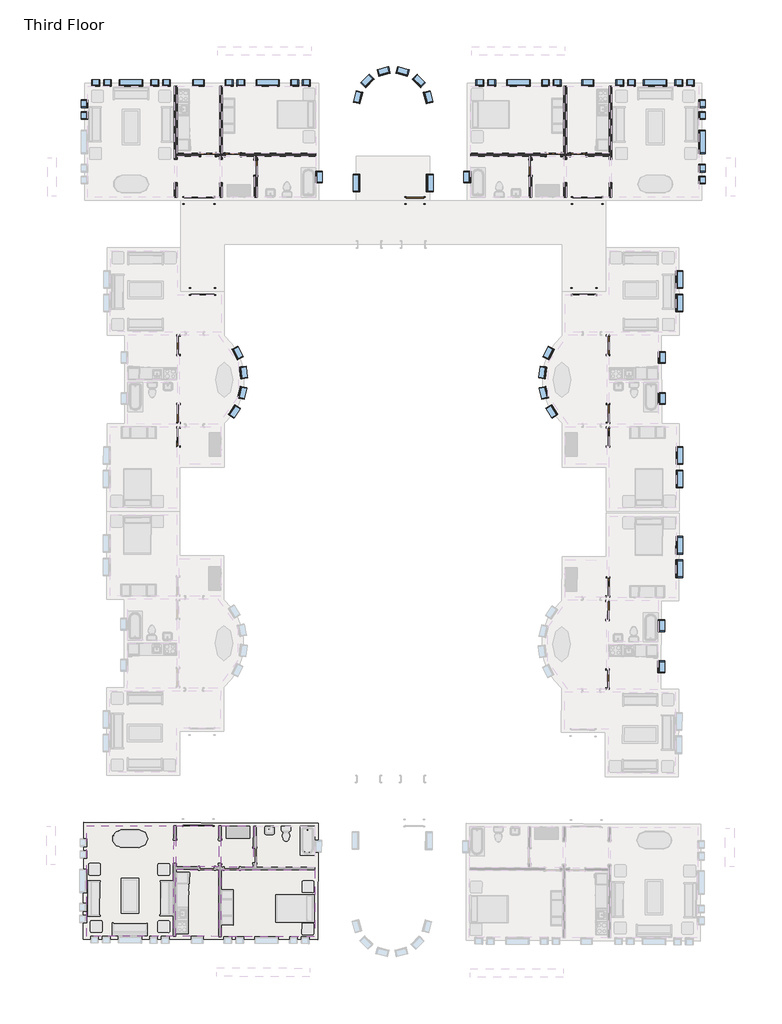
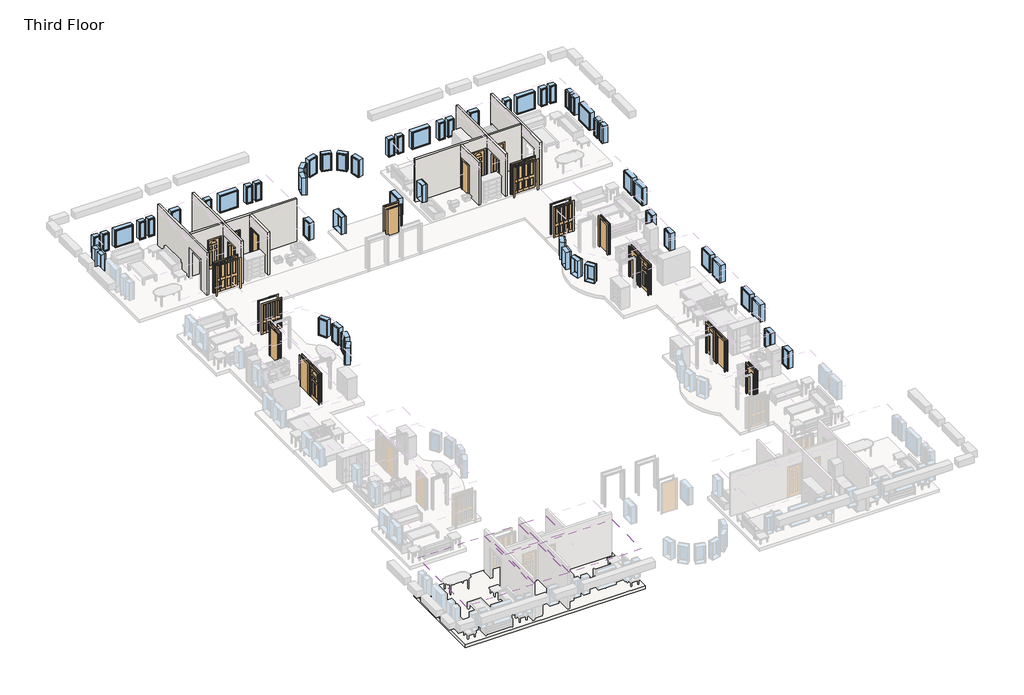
# One storey, part 2 of 5: 57 windows, 20 doors, 8 walls, 5 coverings, 1 slab.
"""IFC4 building model written with IfcOpenShell, lengths in millimetres."""

from ifc_helpers import new_model, si_unit, frame, origin, place, context, project, spatial, polyline, outline, extrude, faceted_brep, transform, mapped, element, save
from components import m_bifold_4_panel_1220_x_2134mm_46e1cad3, m_bifold_4_panel_1220_x_2134mm_cde6dea2, m_bifold_4_panel_1525_x_2134mm_1ddae71f, m_bifold_4_panel_1525_x_2134mm_ac598c8b, m_single_decorative_2_0762_x_2134mm_0d0af7cb, m_single_decorative_2_0762_x_2134mm_2fe67c8e, m_single_decorative_2_0915_x_2134mm_cc9a65e4, m_single_decorative_2_0915_x_2134mm_0b11df3f, m_single_flush_0762_x_2134mm_0d89e411, m_single_flush_0762_x_2134mm_a28375c7, m_single_flush_0915_x_2134mm_1eac8bb1, m_single_flush_0915_x_2134mm_ab9b6334, m_single_flush_0915_x_2134mm_08e0827a, m_fixed_0406_x_1220mm_57fee329, m_fixed_0406_x_1220mm_85c28f40, m_fixed_0610_x_1220mm_2c28ef1d, m_fixed_0610_x_1220mm_1ea27827, m_fixed_0915_x_1220mm_bde29121, m_fixed_0915_x_1220mm_2a2509e7, m_fixed_1220_x_1220mm_e08ff7af, m_fixed_1220_x_1220mm_8f5f8ad3

model = new_model("IFC4")

# Units and contexts
model_context = context("Model", 3, world=origin())
ifc_project = project(units=[si_unit("LENGTHUNIT", "METRE", prefix="MILLI")], contexts=[model_context])

# Site, building, storey
site = spatial("IfcSite", under=ifc_project)
building = spatial("IfcBuilding", under=site)
storey = spatial("IfcBuildingStorey", under=building, Name="Third Floor", Elevation=6096.0)

# Coverings
placement = place(None, origin())
element("IfcCovering", 1, ObjectType="Plain", at=placement, inside=storey, context=model_context, shape_type="SweptSolid", body=[
    extrude(outline(polyline([(-23042.7754252, -41764.4492391), (-27891.2551095, -41750.4135399), (-27881.1911499, -38273.9281067), (-23032.7114656, -38287.9638059), (-23042.7754252, -41764.4492391)])), frame((0.0, 0.0, 8686.0), z_axis=(0.0, 0.0, 1.0), x_axis=(1.0, 0.0, 0.0)), (0.0, 0.0, 1.0), 57.0),
])
element("IfcCovering", 2, ObjectType="Plain", at=placement, inside=storey, context=model_context, shape_type="SweptSolid", body=[
    extrude(outline(polyline([(-28016.6905821, -38273.535854), (-28026.7545418, -41750.0212871), (-30244.9952471, -41743.5997775), (-30234.9312874, -38267.1143443), (-28016.6905821, -38273.535854)])), frame((0.0, 0.0, 8686.0), z_axis=(0.0, 0.0, 1.0), x_axis=(1.0, 0.0, 0.0)), (0.0, 0.0, 1.0), 57.0),
])
element("IfcCovering", 3, ObjectType="Plain", at=placement, inside=storey, context=model_context, shape_type="SweptSolid", body=[
    extrude(outline(polyline([(-30363.8608487, -35997.2316011), (-30380.4946793, -41743.2075247), (-34884.7258061, -41730.168379), (-34868.0919755, -35984.1924553), (-30363.8608487, -35997.2316011)])), frame((0.0, 0.0, 8686.0), z_axis=(0.0, 0.0, 1.0), x_axis=(1.0, 0.0, 0.0)), (0.0, 0.0, 1.0), 57.0),
])
element("IfcCovering", 4, ObjectType="Plain", at=placement, inside=storey, context=model_context, shape_type="SweptSolid", body=[
    extrude(outline(polyline([(-30228.3614165, -35997.6238538), (-28010.1207112, -36004.0453635), (-28016.2983294, -38138.0364218), (-30234.5390347, -38131.6149121), (-30228.3614165, -35997.6238538)])), frame((0.0, 0.0, 8686.0), z_axis=(0.0, 0.0, 1.0), x_axis=(1.0, 0.0, 0.0)), (0.0, 0.0, 1.0), 57.0),
])
element("IfcCovering", 5, ObjectType="Plain", at=placement, inside=storey, context=model_context, shape_type="SweptSolid", body=[
    extrude(outline(polyline([(-27874.6212789, -36004.4376162), (-26209.6282554, -36009.2575479), (-26215.8058737, -38143.2486063), (-27880.7988972, -38138.4286745), (-27874.6212789, -36004.4376162)])), frame((0.0, 0.0, 8686.0), z_axis=(0.0, 0.0, 1.0), x_axis=(1.0, 0.0, 0.0)), (0.0, 0.0, 1.0), 57.0),
])

# Doors
m_bifold_4_panel_1220_x_2134mm_shape = m_bifold_4_panel_1220_x_2134mm_46e1cad3(model_context)
element("IfcDoor", 6, ObjectType="M_Bifold-4 Panel : 1220 x 2134mm", at=placement, inside=storey, context=model_context, shape_type="MappedRepresentation", body=[
    mapped(m_bifold_4_panel_1220_x_2134mm_shape, transform((-28863.3459343, -8240.6820888, 6096.0), x_axis=(-0.9999989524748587, 0.0014474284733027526, 0.0), y_axis=(-0.0014474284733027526, -0.9999989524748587, 0.0), z_axis=(0.0, 0.0, 1.0))),
])
m_bifold_4_panel_1220_x_2134mm_2_shape = m_bifold_4_panel_1220_x_2134mm_cde6dea2(model_context)
element("IfcDoor", 7, ObjectType="M_Bifold-4 Panel : 1220 x 2134mm", at=placement, inside=storey, context=model_context, shape_type="MappedRepresentation", body=[
    mapped(m_bifold_4_panel_1220_x_2134mm_2_shape, transform((-9050.8373063, -8240.6820888, 6096.0), x_axis=(0.9999989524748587, 0.0014474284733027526, 0.0), y_axis=(-0.0014474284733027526, 0.9999989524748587, 0.0), z_axis=(0.0, 0.0, 1.0))),
])
m_bifold_4_panel_1525_x_2134mm_shape = m_bifold_4_panel_1525_x_2134mm_1ddae71f(model_context)
element("IfcDoor", 8, ObjectType="M_Bifold-4 Panel : 1525 x 2134mm", at=placement, inside=storey, context=model_context, shape_type="MappedRepresentation", body=[
    mapped(m_bifold_4_panel_1525_x_2134mm_shape, transform((-8876.0916203, -3514.8811614, 6096.0), x_axis=(1.0, 0.0, 0.0), y_axis=(0.0, 1.0, 0.0), z_axis=(0.0, 0.0, 1.0))),
])
m_bifold_4_panel_1525_x_2134mm_2_shape = m_bifold_4_panel_1525_x_2134mm_ac598c8b(model_context)
element("IfcDoor", 9, ObjectType="M_Bifold-4 Panel : 1525 x 2134mm", at=placement, inside=storey, context=model_context, shape_type="MappedRepresentation", body=[
    mapped(m_bifold_4_panel_1525_x_2134mm_2_shape, transform((-29038.0916203, -3514.8811614, 6096.0), x_axis=(-1.0, 0.0, 0.0), y_axis=(0.0, -1.0, 0.0), z_axis=(0.0, 0.0, 1.0))),
])
m_single_decorative_2_0762_x_2134mm_shape = m_single_decorative_2_0762_x_2134mm_0d0af7cb(model_context)
element("IfcDoor", 10, ObjectType="M_Single-Decorative 2 : 0762 x 2134mm", at=placement, inside=storey, context=model_context, shape_type="MappedRepresentation", body=[
    mapped(m_single_decorative_2_0762_x_2134mm_shape, transform((-9342.3416203, -1138.1311614, 6096.0), x_axis=(-1.0, 0.0, 0.0), y_axis=(0.0, -1.0, 0.0), z_axis=(0.0, 0.0, 1.0))),
])
element("IfcDoor", 11, ObjectType="M_Single-Decorative 2 : 0762 x 2134mm", at=placement, inside=storey, context=model_context, shape_type="MappedRepresentation", body=[
    mapped(m_single_decorative_2_0762_x_2134mm_shape, transform((-27285.0916203, -1138.1311614, 6096.0), x_axis=(-1.0, 0.0, 0.0), y_axis=(0.0, -1.0, 0.0), z_axis=(0.0, 0.0, 1.0))),
])
m_single_decorative_2_0762_x_2134mm_2_shape = m_single_decorative_2_0762_x_2134mm_2fe67c8e(model_context)
element("IfcDoor", 12, ObjectType="M_Single-Decorative 2 : 0762 x 2134mm", at=placement, inside=storey, context=model_context, shape_type="MappedRepresentation", body=[
    mapped(m_single_decorative_2_0762_x_2134mm_2_shape, transform((-10629.0916203, -1138.1311614, 6096.0), x_axis=(1.0, 0.0, 0.0), y_axis=(0.0, 1.0, 0.0), z_axis=(0.0, 0.0, 1.0))),
])
element("IfcDoor", 13, ObjectType="M_Single-Decorative 2 : 0762 x 2134mm", at=placement, inside=storey, context=model_context, shape_type="MappedRepresentation", body=[
    mapped(m_single_decorative_2_0762_x_2134mm_2_shape, transform((-28571.8416203, -1138.1311614, 6096.0), x_axis=(1.0, 0.0, 0.0), y_axis=(0.0, 1.0, 0.0), z_axis=(0.0, 0.0, 1.0))),
])
m_single_decorative_2_0915_x_2134mm_shape = m_single_decorative_2_0915_x_2134mm_cc9a65e4(model_context)
element("IfcDoor", 14, ObjectType="M_Single-Decorative 2 : 0915 x 2134mm", at=placement, inside=storey, context=model_context, shape_type="MappedRepresentation", body=[
    mapped(m_single_decorative_2_0915_x_2134mm_shape, transform((-30117.2933431, -15803.1250115, 6096.0), x_axis=(0.0014474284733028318, 0.9999989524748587, 0.0), y_axis=(-0.9999989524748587, 0.0014474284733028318, 0.0), z_axis=(0.0, 0.0, 1.0))),
])
element("IfcDoor", 15, ObjectType="M_Single-Decorative 2 : 0915 x 2134mm", at=placement, inside=storey, context=model_context, shape_type="MappedRepresentation", body=[
    mapped(m_single_decorative_2_0915_x_2134mm_shape, transform((-7808.1742155, -23599.2312198, 6096.0), x_axis=(-0.004342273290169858, -0.9999905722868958, 0.0), y_axis=(0.9999905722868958, -0.004342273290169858, 0.0), z_axis=(0.0, 0.0, 1.0))),
])
m_single_decorative_2_0915_x_2134mm_2_shape = m_single_decorative_2_0915_x_2134mm_0b11df3f(model_context)
element("IfcDoor", 16, ObjectType="M_Single-Decorative 2 : 0915 x 2134mm", at=placement, inside=storey, context=model_context, shape_type="MappedRepresentation", body=[
    mapped(m_single_decorative_2_0915_x_2134mm_2_shape, transform((-7796.8898976, -15803.1250115, 6096.0), x_axis=(-0.0014474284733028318, 0.9999989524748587, 0.0), y_axis=(-0.9999989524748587, -0.0014474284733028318, 0.0), z_axis=(0.0, 0.0, 1.0))),
])
m_single_flush_0762_x_2134mm_shape = m_single_flush_0762_x_2134mm_0d89e411(model_context)
element("IfcDoor", 17, ObjectType="M_Single-Flush : 0762 x 2134mm", at=placement, inside=storey, context=model_context, shape_type="MappedRepresentation", body=[
    mapped(m_single_flush_0762_x_2134mm_shape, transform((-11819.5916203, -1815.8811614, 6096.0), x_axis=(0.0, 1.0, 0.0), y_axis=(-1.0, 0.0, 0.0), z_axis=(0.0, 0.0, 1.0))),
])
m_single_flush_0762_x_2134mm_2_shape = m_single_flush_0762_x_2134mm_a28375c7(model_context)
element("IfcDoor", 18, ObjectType="M_Single-Flush : 0762 x 2134mm", at=placement, inside=storey, context=model_context, shape_type="MappedRepresentation", body=[
    mapped(m_single_flush_0762_x_2134mm_2_shape, transform((-26094.5916203, -1815.8811614, 6096.0), x_axis=(0.0, 1.0, 0.0), y_axis=(-1.0, 0.0, 0.0), z_axis=(0.0, 0.0, 1.0))),
])
m_single_flush_0915_x_2134mm_shape = m_single_flush_0915_x_2134mm_1eac8bb1(model_context)
element("IfcDoor", 19, ObjectType="M_Single-Flush : 0915 x 2134mm", at=placement, inside=storey, context=model_context, shape_type="MappedRepresentation", body=[
    mapped(m_single_flush_0915_x_2134mm_shape, transform((-17814.0916203, -3514.8811614, 6096.0), x_axis=(1.0, 0.0, 0.0), y_axis=(0.0, 1.0, 0.0), z_axis=(0.0, 0.0, 1.0))),
])
m_single_flush_0915_x_2134mm_2_shape = m_single_flush_0915_x_2134mm_ab9b6334(model_context)
element("IfcDoor", 20, ObjectType="M_Single-Flush : 0915 x 2134mm", at=placement, inside=storey, context=model_context, shape_type="MappedRepresentation", body=[
    mapped(m_single_flush_0915_x_2134mm_2_shape, transform((-7803.7915984, -11034.8800064, 6096.0), x_axis=(-0.0014474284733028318, 0.9999989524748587, 0.0), y_axis=(-0.9999989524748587, -0.0014474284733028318, 0.0), z_axis=(0.0, 0.0, 1.0))),
])
element("IfcDoor", 21, ObjectType="M_Single-Flush : 0915 x 2134mm", at=placement, inside=storey, context=model_context, shape_type="MappedRepresentation", body=[
    mapped(m_single_flush_0915_x_2134mm_2_shape, transform((-30115.5274803, -14583.1262895, 6096.0), x_axis=(-0.0014474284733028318, -0.9999989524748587, 0.0), y_axis=(0.9999989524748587, -0.0014474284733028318, 0.0), z_axis=(0.0, 0.0, 1.0))),
])
element("IfcDoor", 22, ObjectType="M_Single-Flush : 0915 x 2134mm", at=placement, inside=storey, context=model_context, shape_type="MappedRepresentation", body=[
    mapped(m_single_flush_0915_x_2134mm_2_shape, transform((-7813.4717889, -24819.219718, 6096.0), x_axis=(0.004342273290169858, 0.9999905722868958, 0.0), y_axis=(-0.9999905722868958, 0.004342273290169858, 0.0), z_axis=(0.0, 0.0, 1.0))),
])
m_single_flush_0915_x_2134mm_3_shape = m_single_flush_0915_x_2134mm_08e0827a(model_context)
element("IfcDoor", 23, ObjectType="M_Single-Flush : 0915 x 2134mm", at=placement, inside=storey, context=model_context, shape_type="MappedRepresentation", body=[
    mapped(m_single_flush_0915_x_2134mm_3_shape, transform((-7798.6557603, -14583.1262895, 6096.0), x_axis=(0.0014474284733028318, -0.9999989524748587, 0.0), y_axis=(0.9999989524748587, 0.0014474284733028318, 0.0), z_axis=(0.0, 0.0, 1.0))),
])
element("IfcDoor", 24, ObjectType="M_Single-Flush : 0915 x 2134mm", at=placement, inside=storey, context=model_context, shape_type="MappedRepresentation", body=[
    mapped(m_single_flush_0915_x_2134mm_3_shape, transform((-30110.3916422, -11034.8800064, 6096.0), x_axis=(0.0014474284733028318, 0.9999989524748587, 0.0), y_axis=(-0.9999989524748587, 0.0014474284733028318, 0.0), z_axis=(0.0, 0.0, 1.0))),
])
element("IfcDoor", 25, ObjectType="M_Single-Flush : 0915 x 2134mm", at=placement, inside=storey, context=model_context, shape_type="MappedRepresentation", body=[
    mapped(m_single_flush_0915_x_2134mm_3_shape, transform((-7828.8792601, -28367.4362661, 6096.0), x_axis=(-0.004342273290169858, -0.9999905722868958, 0.0), y_axis=(0.9999905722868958, -0.004342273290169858, 0.0), z_axis=(0.0, 0.0, 1.0))),
])

# Slab
element("IfcSlab", 26, ObjectType="160mm Concrete With 50mm Metal Deck", at=placement, inside=storey, context=model_context, shape_type="SweptSolid", body=[
    extrude(outline(polyline([(-35050.2027656, -41894.6900367), (-35032.6136332, -35818.7154958), (-22860.6646351, -35853.9516576), (-22878.2537675, -41929.9261986), (-35050.2027656, -41894.6900367)])), frame((0.0, 0.0, 5886.0), z_axis=(0.0, 0.0, 1.0), x_axis=(1.0, 0.0, 0.0)), (0.0, 0.0, 1.0), 210.0),
])

# Walls
element("IfcWall", 27, ObjectType="Interior - 135mm Partition (2-hr)", at=placement, inside=storey, context=model_context, shape_type="Brep", body=[
    faceted_brep([(-7733.0916203, 2406.1188386, 6096.0), (-7733.0916203, -1070.3811614, 6096.0), (-7733.0916203, -1205.8811614, 6096.0), (-7733.0916203, -1380.8811614, 6096.0), (-7733.0916203, -1380.8811614, 8230.0), (-7733.0916203, -2600.8811614, 8230.0), (-7733.0916203, -2600.8811614, 6096.0), (-7733.0916203, -3339.8811614, 6096.0), (-7733.0916203, -3339.8811614, 9144.0), (-7733.0916203, -1205.8811614, 9144.0), (-7733.0916203, -1070.3811614, 9144.0), (-7733.0916203, 2406.1188386, 9144.0), (-7597.5916203, -1380.8811614, 8230.0), (-7597.5916203, -1380.8811614, 6096.0), (-7597.5916203, 2406.1188386, 6096.0), (-7597.5916203, 2406.1188386, 9144.0), (-7597.5916203, -3339.8811614, 9144.0), (-7597.5916203, -3339.8811614, 6096.0), (-7597.5916203, -2600.8811614, 6096.0), (-7597.5916203, -2600.8811614, 8230.0)], [[[0, 1, 2, 3, 4, 5, 6, 7, 8, 9, 10, 11]], [[12, 13, 14, 15, 16, 17, 18, 19]], [[18, 17, 7, 6]], [[14, 13, 3, 2, 1, 0]], [[11, 10, 9, 8, 16, 15]], [[6, 5, 19, 18]], [[4, 3, 13, 12]], [[5, 4, 12, 19]], [[8, 7, 17, 16]], [[0, 11, 15, 14]]]),
])
element("IfcWall", 28, ObjectType="Interior - 135mm Partition (2-hr)", at=placement, inside=storey, context=model_context, shape_type="Brep", body=[
    faceted_brep([(-10086.8416203, -2600.8811614, 8230.0), (-10086.8416203, -2600.8811614, 6096.0), (-10086.8416203, -3339.8811614, 6096.0), (-10086.8416203, -3339.8811614, 9144.0), (-10086.8416203, -1205.8811614, 9144.0), (-10086.8416203, -1070.3811614, 9144.0), (-10086.8416203, 2406.1188386, 9144.0), (-10086.8416203, 2406.1188386, 6096.0), (-10086.8416203, -1070.3811614, 6096.0), (-10086.8416203, -1205.8811614, 6096.0), (-10086.8416203, -1380.8811614, 6096.0), (-10086.8416203, -1380.8811614, 8230.0), (-9951.3416203, -3339.8811614, 6096.0), (-9951.3416203, -2600.8811614, 6096.0), (-9951.3416203, -2600.8811614, 8230.0), (-9951.3416203, -1380.8811614, 8230.0), (-9951.3416203, -1380.8811614, 6096.0), (-9951.3416203, -1205.8811614, 6096.0), (-9951.3416203, -1070.3811614, 6096.0), (-9951.3416203, 2406.1188386, 6096.0), (-9951.3416203, 2406.1188386, 9144.0), (-9951.3416203, -1070.3811614, 9144.0), (-9951.3416203, -1205.8811614, 9144.0), (-9951.3416203, -3339.8811614, 9144.0)], [[[0, 1, 2, 3, 4, 5, 6, 7, 8, 9, 10, 11]], [[12, 13, 14, 15, 16, 17, 18, 19, 20, 21, 22, 23]], [[2, 1, 13, 12]], [[10, 9, 8, 7, 19, 18, 17, 16]], [[6, 5, 4, 3, 23, 22, 21, 20]], [[16, 15, 11, 10]], [[14, 13, 1, 0]], [[15, 14, 0, 11]], [[3, 2, 12, 23]], [[7, 6, 20, 19]]]),
])
element("IfcWall", 29, ObjectType="Interior - 135mm Partition (2-hr)", at=placement, inside=storey, context=model_context, shape_type="Brep", body=[
    faceted_brep([(-9723.3416203, -1205.8811614, 6096.0), (-9723.3416203, -1205.8811614, 8230.0), (-8961.3416203, -1205.8811614, 8230.0), (-8961.3416203, -1205.8811614, 6096.0), (-7733.0916203, -1205.8811614, 6096.0), (-7733.0916203, -1205.8811614, 9144.0), (-9951.3416203, -1205.8811614, 9144.0), (-9951.3416203, -1205.8811614, 6096.0), (-9723.3416203, -1070.3811614, 8230.0), (-9723.3416203, -1070.3811614, 6096.0), (-9951.3416203, -1070.3811614, 6096.0), (-9951.3416203, -1070.3811614, 9144.0), (-7733.0916203, -1070.3811614, 9144.0), (-7733.0916203, -1070.3811614, 6096.0), (-8961.3416203, -1070.3811614, 6096.0), (-8961.3416203, -1070.3811614, 8230.0)], [[[0, 1, 2, 3, 4, 5, 6, 7]], [[8, 9, 10, 11, 12, 13, 14, 15]], [[9, 0, 7, 10]], [[3, 14, 13, 4]], [[5, 12, 11, 6]], [[1, 0, 9, 8]], [[2, 1, 8, 15]], [[3, 2, 15, 14]], [[5, 4, 13, 12]], [[7, 6, 11, 10]]]),
    faceted_brep([(-10248.0916203, -1205.8811614, 8230.0), (-10248.0916203, -1205.8811614, 6096.0), (-10086.8416203, -1205.8811614, 6096.0), (-10086.8416203, -1205.8811614, 9144.0), (-11751.8416203, -1205.8811614, 9144.0), (-11887.3416203, -1205.8811614, 9144.0), (-14935.3416203, -1205.8811614, 9144.0), (-14935.3416203, -1205.8811614, 6096.0), (-11887.3416203, -1205.8811614, 6096.0), (-11751.8416203, -1205.8811614, 6096.0), (-11010.0916203, -1205.8811614, 6096.0), (-11010.0916203, -1205.8811614, 8230.0), (-10248.0916203, -1070.3811614, 6096.0), (-10248.0916203, -1070.3811614, 8230.0), (-11010.0916203, -1070.3811614, 8230.0), (-11010.0916203, -1070.3811614, 6096.0), (-14935.3416203, -1070.3811614, 6096.0), (-14935.3416203, -1070.3811614, 9144.0), (-10086.8416203, -1070.3811614, 9144.0), (-10086.8416203, -1070.3811614, 6096.0)], [[[0, 1, 2, 3, 4, 5, 6, 7, 8, 9, 10, 11]], [[12, 13, 14, 15, 16, 17, 18, 19]], [[1, 12, 19, 2]], [[15, 10, 9, 8, 7, 16]], [[17, 6, 5, 4, 3, 18]], [[13, 12, 1, 0]], [[14, 13, 0, 11]], [[15, 14, 11, 10]], [[7, 6, 17, 16]], [[3, 2, 19, 18]]]),
])
element("IfcWall", 30, ObjectType="Interior - 135mm Partition (2-hr)", at=placement, inside=storey, context=model_context, shape_type="SweptSolid", body=[
    extrude(outline(polyline([(-1205.8811614, 6096.0), (-1434.8811614, 6096.0), (-1434.8811614, 8230.0), (-2196.8811614, 8230.0), (-2196.8811614, 6096.0), (-3339.8811614, 6096.0), (-3339.8811614, 9144.0), (-1205.8811614, 9144.0), (-1205.8811614, 6096.0)])), frame((-11887.3416203, 0.0, 0.0), z_axis=(1.0, 0.0, 0.0), x_axis=(0.0, 1.0, 0.0)), (0.0, 0.0, 1.0), 135.5),
])
element("IfcWall", 31, ObjectType="Interior - 135mm Partition (2-hr)", at=placement, inside=storey, context=model_context, shape_type="Brep", body=[
    faceted_brep([(-30316.5916203, 2406.1188386, 6096.0), (-30316.5916203, -1380.8811614, 6096.0), (-30316.5916203, -1380.8811614, 8230.0), (-30316.5916203, -2600.8811614, 8230.0), (-30316.5916203, -2600.8811614, 6096.0), (-30316.5916203, -3339.8811614, 6096.0), (-30316.5916203, -3339.8811614, 9144.0), (-30316.5916203, 2406.1188386, 9144.0), (-30181.0916203, -1380.8811614, 8230.0), (-30181.0916203, -1380.8811614, 6096.0), (-30181.0916203, -1205.8811614, 6096.0), (-30181.0916203, -1070.3811614, 6096.0), (-30181.0916203, 2406.1188386, 6096.0), (-30181.0916203, 2406.1188386, 9144.0), (-30181.0916203, -1070.3811614, 9144.0), (-30181.0916203, -1205.8811614, 9144.0), (-30181.0916203, -3339.8811614, 9144.0), (-30181.0916203, -3339.8811614, 6096.0), (-30181.0916203, -2600.8811614, 6096.0), (-30181.0916203, -2600.8811614, 8230.0)], [[[0, 1, 2, 3, 4, 5, 6, 7]], [[8, 9, 10, 11, 12, 13, 14, 15, 16, 17, 18, 19]], [[18, 17, 5, 4]], [[12, 11, 10, 9, 1, 0]], [[7, 6, 16, 15, 14, 13]], [[4, 3, 19, 18]], [[2, 1, 9, 8]], [[3, 2, 8, 19]], [[0, 7, 13, 12]], [[6, 5, 17, 16]]]),
])
element("IfcWall", 32, ObjectType="Interior - 135mm Partition (2-hr)", at=placement, inside=storey, context=model_context, shape_type="Brep", body=[
    faceted_brep([(-27962.8416203, -2600.8811614, 8230.0), (-27962.8416203, -2600.8811614, 6096.0), (-27962.8416203, -3339.8811614, 6096.0), (-27962.8416203, -3339.8811614, 9144.0), (-27962.8416203, -1205.8811614, 9144.0), (-27962.8416203, -1070.3811614, 9144.0), (-27962.8416203, 2406.1188386, 9144.0), (-27962.8416203, 2406.1188386, 6096.0), (-27962.8416203, -1070.3811614, 6096.0), (-27962.8416203, -1205.8811614, 6096.0), (-27962.8416203, -1380.8811614, 6096.0), (-27962.8416203, -1380.8811614, 8230.0), (-27827.3416203, -3339.8811614, 6096.0), (-27827.3416203, -2600.8811614, 6096.0), (-27827.3416203, -2600.8811614, 8230.0), (-27827.3416203, -1380.8811614, 8230.0), (-27827.3416203, -1380.8811614, 6096.0), (-27827.3416203, -1205.8811614, 6096.0), (-27827.3416203, -1070.3811614, 6096.0), (-27827.3416203, 2406.1188386, 6096.0), (-27827.3416203, 2406.1188386, 9144.0), (-27827.3416203, -1070.3811614, 9144.0), (-27827.3416203, -1205.8811614, 9144.0), (-27827.3416203, -3339.8811614, 9144.0)], [[[0, 1, 2, 3, 4, 5, 6, 7, 8, 9, 10, 11]], [[12, 13, 14, 15, 16, 17, 18, 19, 20, 21, 22, 23]], [[2, 1, 13, 12]], [[10, 9, 8, 7, 19, 18, 17, 16]], [[6, 5, 4, 3, 23, 22, 21, 20]], [[16, 15, 11, 10]], [[14, 13, 1, 0]], [[15, 14, 0, 11]], [[7, 6, 20, 19]], [[3, 2, 12, 23]]]),
])
element("IfcWall", 33, ObjectType="Interior - 135mm Partition (2-hr)", at=placement, inside=storey, context=model_context, shape_type="Brep", body=[
    faceted_brep([(-30181.0916203, -1070.3811614, 6096.0), (-30181.0916203, -1070.3811614, 9144.0), (-27962.8416203, -1070.3811614, 9144.0), (-27962.8416203, -1070.3811614, 6096.0), (-28190.8416203, -1070.3811614, 6096.0), (-28190.8416203, -1070.3811614, 8230.0), (-28952.8416203, -1070.3811614, 8230.0), (-28952.8416203, -1070.3811614, 6096.0), (-30181.0916203, -1205.8811614, 9144.0), (-30181.0916203, -1205.8811614, 6096.0), (-28952.8416203, -1205.8811614, 6096.0), (-28952.8416203, -1205.8811614, 8230.0), (-28190.8416203, -1205.8811614, 8230.0), (-28190.8416203, -1205.8811614, 6096.0), (-27962.8416203, -1205.8811614, 6096.0), (-27962.8416203, -1205.8811614, 9144.0)], [[[0, 1, 2, 3, 4, 5, 6, 7]], [[8, 9, 10, 11, 12, 13, 14, 15]], [[9, 0, 7, 10]], [[13, 4, 3, 14]], [[1, 8, 15, 2]], [[1, 0, 9, 8]], [[3, 2, 15, 14]], [[5, 4, 13, 12]], [[6, 5, 12, 11]], [[7, 6, 11, 10]]]),
    faceted_brep([(-27666.0916203, -1070.3811614, 8230.0), (-27666.0916203, -1070.3811614, 6096.0), (-27827.3416203, -1070.3811614, 6096.0), (-27827.3416203, -1070.3811614, 9144.0), (-22978.8416203, -1070.3811614, 9144.0), (-22978.8416203, -1070.3811614, 6096.0), (-26904.0916203, -1070.3811614, 6096.0), (-26904.0916203, -1070.3811614, 8230.0), (-27666.0916203, -1205.8811614, 6096.0), (-27666.0916203, -1205.8811614, 8230.0), (-26904.0916203, -1205.8811614, 8230.0), (-26904.0916203, -1205.8811614, 6096.0), (-26162.3416203, -1205.8811614, 6096.0), (-26026.8416203, -1205.8811614, 6096.0), (-22978.8416203, -1205.8811614, 6096.0), (-22978.8416203, -1205.8811614, 9144.0), (-26026.8416203, -1205.8811614, 9144.0), (-26162.3416203, -1205.8811614, 9144.0), (-27827.3416203, -1205.8811614, 9144.0), (-27827.3416203, -1205.8811614, 6096.0)], [[[0, 1, 2, 3, 4, 5, 6, 7]], [[8, 9, 10, 11, 12, 13, 14, 15, 16, 17, 18, 19]], [[1, 8, 19, 2]], [[11, 6, 5, 14, 13, 12]], [[15, 4, 3, 18, 17, 16]], [[3, 2, 19, 18]], [[9, 8, 1, 0]], [[10, 9, 0, 7]], [[11, 10, 7, 6]], [[5, 4, 15, 14]]]),
])
element("IfcWall", 34, ObjectType="Interior - 135mm Partition (2-hr)", at=placement, inside=storey, context=model_context, shape_type="SweptSolid", body=[
    extrude(outline(polyline([(-1205.8811614, 6096.0), (-1434.8811614, 6096.0), (-1434.8811614, 8230.0), (-2196.8811614, 8230.0), (-2196.8811614, 6096.0), (-3339.8811614, 6096.0), (-3339.8811614, 9144.0), (-1205.8811614, 9144.0), (-1205.8811614, 6096.0)])), frame((-26162.3416203, 0.0, 0.0), z_axis=(1.0, 0.0, 0.0), x_axis=(0.0, 1.0, 0.0)), (0.0, 0.0, 1.0), 135.5),
])

# Windows
m_fixed_0406_x_1220mm_shape = m_fixed_0406_x_1220mm_57fee329(model_context)
element("IfcWindow", 35, ObjectType="M_Fixed : 0406 x 1220mm", at=placement, inside=storey, context=model_context, shape_type="MappedRepresentation", body=[
    mapped(m_fixed_0406_x_1220mm_shape, transform((-14450.3416203, 2594.1188386, 6096.0), x_axis=(-1.0, 0.0, 0.0), y_axis=(0.0, -1.0, 0.0), z_axis=(0.0, 0.0, 1.0))),
])
element("IfcWindow", 36, ObjectType="M_Fixed : 0406 x 1220mm", at=placement, inside=storey, context=model_context, shape_type="MappedRepresentation", body=[
    mapped(m_fixed_0406_x_1220mm_shape, transform((-13840.3416203, 2594.1188386, 6096.0), x_axis=(-1.0, 0.0, 0.0), y_axis=(0.0, -1.0, 0.0), z_axis=(0.0, 0.0, 1.0))),
])
element("IfcWindow", 37, ObjectType="M_Fixed : 0406 x 1220mm", at=placement, inside=storey, context=model_context, shape_type="MappedRepresentation", body=[
    mapped(m_fixed_0406_x_1220mm_shape, transform((-7183.3416203, 2594.1188386, 6096.0), x_axis=(-1.0, 0.0, 0.0), y_axis=(0.0, -1.0, 0.0), z_axis=(0.0, 0.0, 1.0))),
])
element("IfcWindow", 38, ObjectType="M_Fixed : 0406 x 1220mm", at=placement, inside=storey, context=model_context, shape_type="MappedRepresentation", body=[
    mapped(m_fixed_0406_x_1220mm_shape, transform((-6573.3416203, 2594.1188386, 6096.0), x_axis=(-1.0, 0.0, 0.0), y_axis=(0.0, -1.0, 0.0), z_axis=(0.0, 0.0, 1.0))),
])
element("IfcWindow", 39, ObjectType="M_Fixed : 0406 x 1220mm", at=placement, inside=storey, context=model_context, shape_type="MappedRepresentation", body=[
    mapped(m_fixed_0406_x_1220mm_shape, transform((-2905.3416203, 1514.1188386, 6096.0), x_axis=(0.0, 1.0, 0.0), y_axis=(-1.0, 0.0, 0.0), z_axis=(0.0, 0.0, 1.0))),
])
element("IfcWindow", 40, ObjectType="M_Fixed : 0406 x 1220mm", at=placement, inside=storey, context=model_context, shape_type="MappedRepresentation", body=[
    mapped(m_fixed_0406_x_1220mm_shape, transform((-2905.3416203, 904.1188386, 6096.0), x_axis=(0.0, 1.0, 0.0), y_axis=(-1.0, 0.0, 0.0), z_axis=(0.0, 0.0, 1.0))),
])
element("IfcWindow", 41, ObjectType="M_Fixed : 0406 x 1220mm", at=placement, inside=storey, context=model_context, shape_type="MappedRepresentation", body=[
    mapped(m_fixed_0406_x_1220mm_shape, transform((-27477.8416203, 2594.1188386, 6096.0), x_axis=(-1.0, 0.0, 0.0), y_axis=(0.0, -1.0, 0.0), z_axis=(0.0, 0.0, 1.0))),
])
element("IfcWindow", 42, ObjectType="M_Fixed : 0406 x 1220mm", at=placement, inside=storey, context=model_context, shape_type="MappedRepresentation", body=[
    mapped(m_fixed_0406_x_1220mm_shape, transform((-26867.8416203, 2594.1188386, 6096.0), x_axis=(-1.0, 0.0, 0.0), y_axis=(0.0, -1.0, 0.0), z_axis=(0.0, 0.0, 1.0))),
])
element("IfcWindow", 43, ObjectType="M_Fixed : 0406 x 1220mm", at=placement, inside=storey, context=model_context, shape_type="MappedRepresentation", body=[
    mapped(m_fixed_0406_x_1220mm_shape, transform((-34406.5916203, 2594.1188386, 6096.0), x_axis=(-1.0, 0.0, 0.0), y_axis=(0.0, -1.0, 0.0), z_axis=(0.0, 0.0, 1.0))),
])
element("IfcWindow", 44, ObjectType="M_Fixed : 0406 x 1220mm", at=placement, inside=storey, context=model_context, shape_type="MappedRepresentation", body=[
    mapped(m_fixed_0406_x_1220mm_shape, transform((-33796.5916203, 2594.1188386, 6096.0), x_axis=(-1.0, 0.0, 0.0), y_axis=(0.0, -1.0, 0.0), z_axis=(0.0, 0.0, 1.0))),
])
m_fixed_0406_x_1220mm_2_shape = m_fixed_0406_x_1220mm_85c28f40(model_context)
element("IfcWindow", 45, ObjectType="M_Fixed : 0406 x 1220mm", at=placement, inside=storey, context=model_context, shape_type="MappedRepresentation", body=[
    mapped(m_fixed_0406_x_1220mm_2_shape, transform((-10436.3416203, 2594.1188386, 6096.0), x_axis=(1.0, 0.0, 0.0), y_axis=(0.0, 1.0, 0.0), z_axis=(0.0, 0.0, 1.0))),
])
element("IfcWindow", 46, ObjectType="M_Fixed : 0406 x 1220mm", at=placement, inside=storey, context=model_context, shape_type="MappedRepresentation", body=[
    mapped(m_fixed_0406_x_1220mm_2_shape, transform((-11046.3416203, 2594.1188386, 6096.0), x_axis=(1.0, 0.0, 0.0), y_axis=(0.0, 1.0, 0.0), z_axis=(0.0, 0.0, 1.0))),
])
element("IfcWindow", 47, ObjectType="M_Fixed : 0406 x 1220mm", at=placement, inside=storey, context=model_context, shape_type="MappedRepresentation", body=[
    mapped(m_fixed_0406_x_1220mm_2_shape, transform((-3507.5916203, 2594.1188386, 6096.0), x_axis=(1.0, 0.0, 0.0), y_axis=(0.0, 1.0, 0.0), z_axis=(0.0, 0.0, 1.0))),
])
element("IfcWindow", 48, ObjectType="M_Fixed : 0406 x 1220mm", at=placement, inside=storey, context=model_context, shape_type="MappedRepresentation", body=[
    mapped(m_fixed_0406_x_1220mm_2_shape, transform((-4117.5916203, 2594.1188386, 6096.0), x_axis=(1.0, 0.0, 0.0), y_axis=(0.0, 1.0, 0.0), z_axis=(0.0, 0.0, 1.0))),
])
element("IfcWindow", 49, ObjectType="M_Fixed : 0406 x 1220mm", at=placement, inside=storey, context=model_context, shape_type="MappedRepresentation", body=[
    mapped(m_fixed_0406_x_1220mm_2_shape, transform((-2905.3416203, -2447.8811614, 6096.0), x_axis=(0.0, -1.0, 0.0), y_axis=(1.0, 0.0, 0.0), z_axis=(0.0, 0.0, 1.0))),
])
element("IfcWindow", 50, ObjectType="M_Fixed : 0406 x 1220mm", at=placement, inside=storey, context=model_context, shape_type="MappedRepresentation", body=[
    mapped(m_fixed_0406_x_1220mm_2_shape, transform((-2905.3416203, -1837.8811614, 6096.0), x_axis=(0.0, -1.0, 0.0), y_axis=(1.0, 0.0, 0.0), z_axis=(0.0, 0.0, 1.0))),
])
element("IfcWindow", 51, ObjectType="M_Fixed : 0406 x 1220mm", at=placement, inside=storey, context=model_context, shape_type="MappedRepresentation", body=[
    mapped(m_fixed_0406_x_1220mm_2_shape, transform((-23463.8416203, 2594.1188386, 6096.0), x_axis=(1.0, 0.0, 0.0), y_axis=(0.0, 1.0, 0.0), z_axis=(0.0, 0.0, 1.0))),
])
element("IfcWindow", 52, ObjectType="M_Fixed : 0406 x 1220mm", at=placement, inside=storey, context=model_context, shape_type="MappedRepresentation", body=[
    mapped(m_fixed_0406_x_1220mm_2_shape, transform((-24073.8416203, 2594.1188386, 6096.0), x_axis=(1.0, 0.0, 0.0), y_axis=(0.0, 1.0, 0.0), z_axis=(0.0, 0.0, 1.0))),
])
element("IfcWindow", 53, ObjectType="M_Fixed : 0406 x 1220mm", at=placement, inside=storey, context=model_context, shape_type="MappedRepresentation", body=[
    mapped(m_fixed_0406_x_1220mm_2_shape, transform((-30730.8416203, 2594.1188386, 6096.0), x_axis=(1.0, 0.0, 0.0), y_axis=(0.0, 1.0, 0.0), z_axis=(0.0, 0.0, 1.0))),
])
element("IfcWindow", 54, ObjectType="M_Fixed : 0406 x 1220mm", at=placement, inside=storey, context=model_context, shape_type="MappedRepresentation", body=[
    mapped(m_fixed_0406_x_1220mm_2_shape, transform((-31340.8416203, 2594.1188386, 6096.0), x_axis=(1.0, 0.0, 0.0), y_axis=(0.0, 1.0, 0.0), z_axis=(0.0, 0.0, 1.0))),
])
element("IfcWindow", 55, ObjectType="M_Fixed : 0406 x 1220mm", at=placement, inside=storey, context=model_context, shape_type="MappedRepresentation", body=[
    mapped(m_fixed_0406_x_1220mm_2_shape, transform((-35008.8416203, 1514.1188386, 6096.0), x_axis=(0.0, 1.0, 0.0), y_axis=(-1.0, 0.0, 0.0), z_axis=(0.0, 0.0, 1.0))),
])
element("IfcWindow", 56, ObjectType="M_Fixed : 0406 x 1220mm", at=placement, inside=storey, context=model_context, shape_type="MappedRepresentation", body=[
    mapped(m_fixed_0406_x_1220mm_2_shape, transform((-35008.8416203, 904.1188386, 6096.0), x_axis=(0.0, 1.0, 0.0), y_axis=(-1.0, 0.0, 0.0), z_axis=(0.0, 0.0, 1.0))),
])
m_fixed_0610_x_1220mm_shape = m_fixed_0610_x_1220mm_2c28ef1d(model_context)
element("IfcWindow", 57, ObjectType="M_Fixed : 0610 x 1220mm", at=placement, inside=storey, context=model_context, shape_type="MappedRepresentation", body=[
    mapped(m_fixed_0610_x_1220mm_shape, transform((-8842.1916203, 2594.1188386, 6096.0), x_axis=(-1.0, 0.0, 0.0), y_axis=(0.0, -1.0, 0.0), z_axis=(0.0, 0.0, 1.0))),
])
element("IfcWindow", 58, ObjectType="M_Fixed : 0610 x 1220mm", at=placement, inside=storey, context=model_context, shape_type="MappedRepresentation", body=[
    mapped(m_fixed_0610_x_1220mm_shape, transform((-15123.3416203, -2294.8811614, 6096.0), x_axis=(0.0, -1.0, 0.0), y_axis=(1.0, 0.0, 0.0), z_axis=(0.0, 0.0, 1.0))),
])
element("IfcWindow", 59, ObjectType="M_Fixed : 0610 x 1220mm", at=placement, inside=storey, context=model_context, shape_type="MappedRepresentation", body=[
    mapped(m_fixed_0610_x_1220mm_shape, transform((-20788.0201619, 1852.7146627, 6096.0), x_axis=(-0.2588190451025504, -0.9659258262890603, 0.0), y_axis=(0.9659258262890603, -0.2588190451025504, 0.0), z_axis=(0.0, 0.0, 1.0))),
])
element("IfcWindow", 60, ObjectType="M_Fixed : 0610 x 1220mm", at=placement, inside=storey, context=model_context, shape_type="MappedRepresentation", body=[
    mapped(m_fixed_0610_x_1220mm_shape, transform((-19447.6874444, 3193.0473802, 6096.0), x_axis=(-0.9659258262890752, -0.2588190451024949, 0.0), y_axis=(0.2588190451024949, -0.9659258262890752, 0.0), z_axis=(0.0, 0.0, 1.0))),
])
element("IfcWindow", 61, ObjectType="M_Fixed : 0610 x 1220mm", at=placement, inside=storey, context=model_context, shape_type="MappedRepresentation", body=[
    mapped(m_fixed_0610_x_1220mm_shape, transform((-20297.4243378, 2702.4515561, 6096.0), x_axis=(-0.707106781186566, -0.7071067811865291, 0.0), y_axis=(0.7071067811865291, -0.707106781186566, 0.0), z_axis=(0.0, 0.0, 1.0))),
])
element("IfcWindow", 62, ObjectType="M_Fixed : 0610 x 1220mm", at=placement, inside=storey, context=model_context, shape_type="MappedRepresentation", body=[
    mapped(m_fixed_0610_x_1220mm_shape, transform((-10890.7718819, -11438.4303335, 6096.0), x_axis=(-0.4506702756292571, -0.8926904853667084, 0.0), y_axis=(0.8926904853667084, -0.4506702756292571, 0.0), z_axis=(0.0, 0.0, 1.0))),
])
element("IfcWindow", 63, ObjectType="M_Fixed : 0610 x 1220mm", at=placement, inside=storey, context=model_context, shape_type="MappedRepresentation", body=[
    mapped(m_fixed_0610_x_1220mm_shape, transform((-11196.3470359, -12451.3940589, 6096.0), x_axis=(-0.11817340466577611, -0.9929929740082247, 0.0), y_axis=(0.9929929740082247, -0.11817340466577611, 0.0), z_axis=(0.0, 0.0, 1.0))),
])
element("IfcWindow", 64, ObjectType="M_Fixed : 0610 x 1220mm", at=placement, inside=storey, context=model_context, shape_type="MappedRepresentation", body=[
    mapped(m_fixed_0610_x_1220mm_shape, transform((-27195.6619811, -14479.206252, 6096.0), x_axis=(0.5477575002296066, 0.8366371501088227, 0.0), y_axis=(-0.8366371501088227, 0.5477575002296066, 0.0), z_axis=(0.0, 0.0, 1.0))),
])
element("IfcWindow", 65, ObjectType="M_Fixed : 0610 x 1220mm", at=placement, inside=storey, context=model_context, shape_type="MappedRepresentation", body=[
    mapped(m_fixed_0610_x_1220mm_shape, transform((-26778.8680979, -13507.3765282, 6096.0), x_axis=(0.22857692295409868, 0.9735258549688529, 0.0), y_axis=(-0.9735258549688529, 0.22857692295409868, 0.0), z_axis=(0.0, 0.0, 1.0))),
])
element("IfcWindow", 66, ObjectType="M_Fixed : 0610 x 1220mm", at=placement, inside=storey, context=model_context, shape_type="MappedRepresentation", body=[
    mapped(m_fixed_0610_x_1220mm_shape, transform((-5008.2557133, -25604.6081373, 6096.0), x_axis=(0.004342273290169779, 0.9999905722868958, 0.0), y_axis=(-0.9999905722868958, 0.004342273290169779, 0.0), z_axis=(0.0, 0.0, 1.0))),
])
element("IfcWindow", 67, ObjectType="M_Fixed : 0610 x 1220mm", at=placement, inside=storey, context=model_context, shape_type="MappedRepresentation", body=[
    mapped(m_fixed_0610_x_1220mm_shape, transform((-5017.5203876, -27738.1880223, 6096.0), x_axis=(0.004342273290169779, 0.9999905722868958, 0.0), y_axis=(-0.9999905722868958, 0.004342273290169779, 0.0), z_axis=(0.0, 0.0, 1.0))),
])
m_fixed_0610_x_1220mm_2_shape = m_fixed_0610_x_1220mm_1ea27827(model_context)
element("IfcWindow", 68, ObjectType="M_Fixed : 0610 x 1220mm", at=placement, inside=storey, context=model_context, shape_type="MappedRepresentation", body=[
    mapped(m_fixed_0610_x_1220mm_2_shape, transform((-17126.1630788, 1852.7146627, 6096.0), x_axis=(0.2588190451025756, -0.9659258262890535, 0.0), y_axis=(0.9659258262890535, 0.2588190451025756, 0.0), z_axis=(0.0, 0.0, 1.0))),
])
element("IfcWindow", 69, ObjectType="M_Fixed : 0610 x 1220mm", at=placement, inside=storey, context=model_context, shape_type="MappedRepresentation", body=[
    mapped(m_fixed_0610_x_1220mm_2_shape, transform((-18466.4957962, 3193.0473802, 6096.0), x_axis=(0.9659258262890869, -0.2588190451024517, 0.0), y_axis=(0.2588190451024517, 0.9659258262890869, 0.0), z_axis=(0.0, 0.0, 1.0))),
])
element("IfcWindow", 70, ObjectType="M_Fixed : 0610 x 1220mm", at=placement, inside=storey, context=model_context, shape_type="MappedRepresentation", body=[
    mapped(m_fixed_0610_x_1220mm_2_shape, transform((-17616.7589029, 2702.4515561, 6096.0), x_axis=(0.7071067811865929, -0.7071067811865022, 0.0), y_axis=(0.7071067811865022, 0.7071067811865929, 0.0), z_axis=(0.0, 0.0, 1.0))),
])
element("IfcWindow", 71, ObjectType="M_Fixed : 0610 x 1220mm", at=placement, inside=storey, context=model_context, shape_type="MappedRepresentation", body=[
    mapped(m_fixed_0610_x_1220mm_2_shape, transform((-4991.1778541, -13805.8618518, 6096.0), x_axis=(0.0014474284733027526, -0.9999989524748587, 0.0), y_axis=(0.9999989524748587, 0.0014474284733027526, 0.0), z_axis=(0.0, 0.0, 1.0))),
])
element("IfcWindow", 72, ObjectType="M_Fixed : 0610 x 1220mm", at=placement, inside=storey, context=model_context, shape_type="MappedRepresentation", body=[
    mapped(m_fixed_0610_x_1220mm_2_shape, transform((-4994.2660875, -11672.2640868, 6096.0), x_axis=(0.0014474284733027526, -0.9999989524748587, 0.0), y_axis=(0.9999989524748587, 0.0014474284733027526, 0.0), z_axis=(0.0, 0.0, 1.0))),
])
element("IfcWindow", 73, ObjectType="M_Fixed : 0610 x 1220mm", at=placement, inside=storey, context=model_context, shape_type="MappedRepresentation", body=[
    mapped(m_fixed_0610_x_1220mm_2_shape, transform((-10720.0033717, -14480.1766106, 6096.0), x_axis=(-0.5477575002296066, 0.8366371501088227, 0.0), y_axis=(-0.8366371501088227, -0.5477575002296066, 0.0), z_axis=(0.0, 0.0, 1.0))),
])
element("IfcWindow", 74, ObjectType="M_Fixed : 0610 x 1220mm", at=placement, inside=storey, context=model_context, shape_type="MappedRepresentation", body=[
    mapped(m_fixed_0610_x_1220mm_2_shape, transform((-11137.0397547, -13507.7814548, 6096.0), x_axis=(-0.22857692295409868, 0.9735258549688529, 0.0), y_axis=(-0.9735258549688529, -0.22857692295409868, 0.0), z_axis=(0.0, 0.0, 1.0))),
])
element("IfcWindow", 75, ObjectType="M_Fixed : 0610 x 1220mm", at=placement, inside=storey, context=model_context, shape_type="MappedRepresentation", body=[
    mapped(m_fixed_0610_x_1220mm_2_shape, transform((-29071.9916203, 2594.1188386, 6096.0), x_axis=(1.0, 0.0, 0.0), y_axis=(0.0, 1.0, 0.0), z_axis=(0.0, 0.0, 1.0))),
])
element("IfcWindow", 76, ObjectType="M_Fixed : 0610 x 1220mm", at=placement, inside=storey, context=model_context, shape_type="MappedRepresentation", body=[
    mapped(m_fixed_0610_x_1220mm_2_shape, transform((-22790.8416203, -2294.8811614, 6096.0), x_axis=(0.0, -1.0, 0.0), y_axis=(1.0, 0.0, 0.0), z_axis=(0.0, 0.0, 1.0))),
])
element("IfcWindow", 77, ObjectType="M_Fixed : 0610 x 1220mm", at=placement, inside=storey, context=model_context, shape_type="MappedRepresentation", body=[
    mapped(m_fixed_0610_x_1220mm_2_shape, transform((-27024.99277, -11439.2287009, 6096.0), x_axis=(0.4506702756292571, -0.8926904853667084, 0.0), y_axis=(0.8926904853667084, 0.4506702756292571, 0.0), z_axis=(0.0, 0.0, 1.0))),
])
element("IfcWindow", 78, ObjectType="M_Fixed : 0610 x 1220mm", at=placement, inside=storey, context=model_context, shape_type="MappedRepresentation", body=[
    mapped(m_fixed_0610_x_1220mm_2_shape, transform((-26719.595303, -12451.6034044, 6096.0), x_axis=(0.11817340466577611, -0.9929929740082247, 0.0), y_axis=(0.9929929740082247, 0.11817340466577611, 0.0), z_axis=(0.0, 0.0, 1.0))),
])
m_fixed_0915_x_1220mm_shape = m_fixed_0915_x_1220mm_bde29121(model_context)
element("IfcWindow", 79, ObjectType="M_Fixed : 0915 x 1220mm", at=placement, inside=storey, context=model_context, shape_type="MappedRepresentation", body=[
    mapped(m_fixed_0915_x_1220mm_shape, transform((-20875.0916203, -2599.8811614, 6096.0), x_axis=(0.0, -1.0, 0.0), y_axis=(1.0, 0.0, 0.0), z_axis=(0.0, 0.0, 1.0))),
])
element("IfcWindow", 80, ObjectType="M_Fixed : 0915 x 1220mm", at=placement, inside=storey, context=model_context, shape_type="MappedRepresentation", body=[
    mapped(m_fixed_0915_x_1220mm_shape, transform((-17039.0916203, -2599.8811614, 6096.0), x_axis=(0.0, 1.0, 0.0), y_axis=(-1.0, 0.0, 0.0), z_axis=(0.0, 0.0, 1.0))),
])
element("IfcWindow", 81, ObjectType="M_Fixed : 0915 x 1220mm", at=placement, inside=storey, context=model_context, shape_type="MappedRepresentation", body=[
    mapped(m_fixed_0915_x_1220mm_shape, transform((-4075.7025589, -21426.0681439, 6096.0), x_axis=(0.004342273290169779, 0.9999905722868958, 0.0), y_axis=(-0.9999905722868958, 0.004342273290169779, 0.0), z_axis=(0.0, 0.0, 1.0))),
])
element("IfcWindow", 82, ObjectType="M_Fixed : 0915 x 1220mm", at=placement, inside=storey, context=model_context, shape_type="MappedRepresentation", body=[
    mapped(m_fixed_0915_x_1220mm_shape, transform((-4080.9966585, -22645.2566496, 6096.0), x_axis=(0.004342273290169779, 0.9999905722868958, 0.0), y_axis=(-0.9999905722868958, 0.004342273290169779, 0.0), z_axis=(0.0, 0.0, 1.0))),
])
m_fixed_0915_x_1220mm_2_shape = m_fixed_0915_x_1220mm_2a2509e7(model_context)
element("IfcWindow", 83, ObjectType="M_Fixed : 0915 x 1220mm", at=placement, inside=storey, context=model_context, shape_type="MappedRepresentation", body=[
    mapped(m_fixed_0915_x_1220mm_2_shape, transform((-4070.72487, -17987.0839419, 6096.0), x_axis=(0.0014474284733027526, -0.9999989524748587, 0.0), y_axis=(0.9999989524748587, 0.0014474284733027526, 0.0), z_axis=(0.0, 0.0, 1.0))),
])
element("IfcWindow", 84, ObjectType="M_Fixed : 0915 x 1220mm", at=placement, inside=storey, context=model_context, shape_type="MappedRepresentation", body=[
    mapped(m_fixed_0915_x_1220mm_2_shape, transform((-4072.4895748, -16767.885219, 6096.0), x_axis=(0.0014474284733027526, -0.9999989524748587, 0.0), y_axis=(0.9999989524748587, 0.0014474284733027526, 0.0), z_axis=(0.0, 0.0, 1.0))),
])
element("IfcWindow", 85, ObjectType="M_Fixed : 0915 x 1220mm", at=placement, inside=storey, context=model_context, shape_type="MappedRepresentation", body=[
    mapped(m_fixed_0915_x_1220mm_2_shape, transform((-4083.960156, -8843.0935205, 6096.0), x_axis=(0.0014474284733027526, -0.9999989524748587, 0.0), y_axis=(0.9999989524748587, 0.0014474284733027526, 0.0), z_axis=(0.0, 0.0, 1.0))),
])
element("IfcWindow", 86, ObjectType="M_Fixed : 0915 x 1220mm", at=placement, inside=storey, context=model_context, shape_type="MappedRepresentation", body=[
    mapped(m_fixed_0915_x_1220mm_2_shape, transform((-4085.7248607, -7623.8947976, 6096.0), x_axis=(0.0014474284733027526, -0.9999989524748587, 0.0), y_axis=(0.9999989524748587, 0.0014474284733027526, 0.0), z_axis=(0.0, 0.0, 1.0))),
])
m_fixed_1220_x_1220mm_shape = m_fixed_1220_x_1220mm_e08ff7af(model_context)
element("IfcWindow", 87, ObjectType="M_Fixed : 1220 x 1220mm", at=placement, inside=storey, context=model_context, shape_type="MappedRepresentation", body=[
    mapped(m_fixed_1220_x_1220mm_shape, transform((-12443.3416203, 2594.1188386, 6096.0), x_axis=(-1.0, 0.0, 0.0), y_axis=(0.0, -1.0, 0.0), z_axis=(0.0, 0.0, 1.0))),
])
element("IfcWindow", 88, ObjectType="M_Fixed : 1220 x 1220mm", at=placement, inside=storey, context=model_context, shape_type="MappedRepresentation", body=[
    mapped(m_fixed_1220_x_1220mm_shape, transform((-5345.4666203, 2594.1188386, 6096.0), x_axis=(-1.0, 0.0, 0.0), y_axis=(0.0, -1.0, 0.0), z_axis=(0.0, 0.0, 1.0))),
])
element("IfcWindow", 89, ObjectType="M_Fixed : 1220 x 1220mm", at=placement, inside=storey, context=model_context, shape_type="MappedRepresentation", body=[
    mapped(m_fixed_1220_x_1220mm_shape, transform((-2905.3416203, -466.8811614, 6096.0), x_axis=(0.0, 1.0, 0.0), y_axis=(-1.0, 0.0, 0.0), z_axis=(0.0, 0.0, 1.0))),
])
m_fixed_1220_x_1220mm_2_shape = m_fixed_1220_x_1220mm_8f5f8ad3(model_context)
element("IfcWindow", 90, ObjectType="M_Fixed : 1220 x 1220mm", at=placement, inside=storey, context=model_context, shape_type="MappedRepresentation", body=[
    mapped(m_fixed_1220_x_1220mm_2_shape, transform((-25470.8416203, 2594.1188386, 6096.0), x_axis=(1.0, 0.0, 0.0), y_axis=(0.0, 1.0, 0.0), z_axis=(0.0, 0.0, 1.0))),
])
element("IfcWindow", 91, ObjectType="M_Fixed : 1220 x 1220mm", at=placement, inside=storey, context=model_context, shape_type="MappedRepresentation", body=[
    mapped(m_fixed_1220_x_1220mm_2_shape, transform((-32568.7166203, 2594.1188386, 6096.0), x_axis=(1.0, 0.0, 0.0), y_axis=(0.0, 1.0, 0.0), z_axis=(0.0, 0.0, 1.0))),
])

save(model, "model.ifc")
